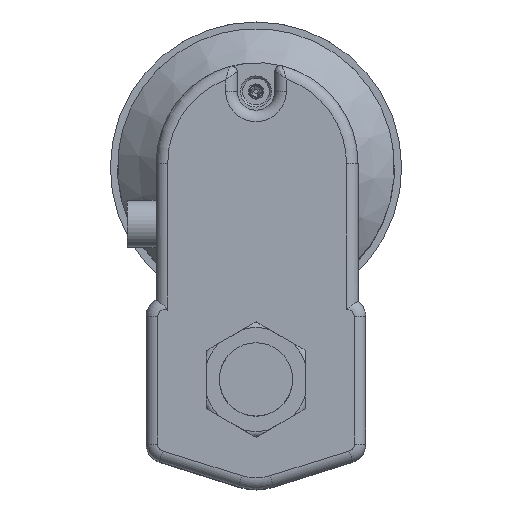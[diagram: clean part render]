
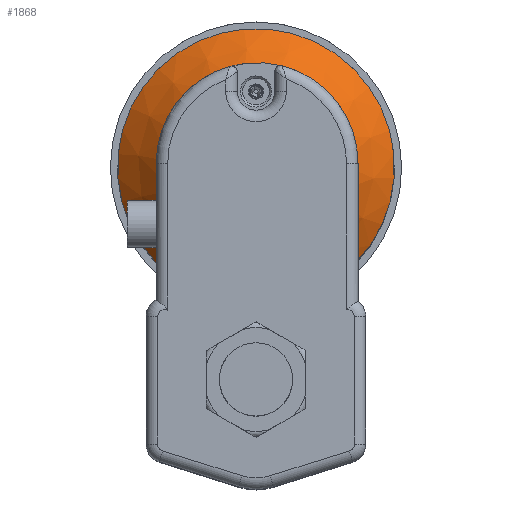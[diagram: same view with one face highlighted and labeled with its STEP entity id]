
A CAD part, top view. The second image highlights one B-rep face of the part: STEP entity #1868.
In plain terms, the highlighted conical face has half-angle 45 degrees and reference radius 48 mm.
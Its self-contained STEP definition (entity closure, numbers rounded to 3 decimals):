
#119 = VERTEX_POINT ( 'NONE', #287 ) ;
#120 = VERTEX_POINT ( 'NONE', #288 ) ;
#287 = CARTESIAN_POINT ( 'NONE',  ( 27.908, 34.847, 53.5 ) ) ;
#288 = CARTESIAN_POINT ( 'NONE',  ( -27.908, 34.847, 53.5 ) ) ;
#673 = FACE_OUTER_BOUND ( 'NONE', #5322, .T. ) ;
#676 = FACE_BOUND ( 'NONE', #5338, .T. ) ;
#677 = CONICAL_SURFACE ( 'NONE', #5158, 48., 0.785 ) ;
#963 = B_SPLINE_CURVE_WITH_KNOTS ( 'NONE', 3,
 ( #3382, #3385, #3386, #3387, #3388, #3389, #3390, #3391, #3392, #3393, #3394, #3395, #3396, #3397, #3398, #3399, #3400, #3401, #3402, #3403, #3404, #3405, #3406, #3407, #3408, #3409 ),
 .UNSPECIFIED., .F., .F.,
 ( 4, 2, 2, 2, 2, 2, 2, 2, 2, 2, 2, 2, 4 ),
 ( 0., 0.004, 0.007, 0.015, 0.018, 0.022, 0.026, 0.029, 0.037, 0.04, 0.044, 0.051, 0.059 ),
 .UNSPECIFIED. ) ;
#1533 = CIRCLE ( 'NONE', #2106, 34. ) ;
#1548 = CIRCLE ( 'NONE', #2114, 48. ) ;
#1868 = ADVANCED_FACE ( 'NONE', ( #676, #673 ), #677, .T. ) ;
#2106 = AXIS2_PLACEMENT_3D ( 'NONE', #3332, #3346, #3347 ) ;
#2114 = AXIS2_PLACEMENT_3D ( 'NONE', #3433, #3442, #3443 ) ;
#3332 = CARTESIAN_POINT ( 'NONE',  ( 0., 73.9, 67.5 ) ) ;
#3346 = DIRECTION ( 'NONE',  ( 0., 0., 1. ) ) ;
#3347 = DIRECTION ( 'NONE',  ( 0., -1., 0. ) ) ;
#3382 = CARTESIAN_POINT ( 'NONE',  ( -27.908, 34.847, 53.5 ) ) ;
#3385 = CARTESIAN_POINT ( 'NONE',  ( -26.826, 34.768, 54.065 ) ) ;
#3386 = CARTESIAN_POINT ( 'NONE',  ( -25.733, 34.688, 54.609 ) ) ;
#3387 = CARTESIAN_POINT ( 'NONE',  ( -23.531, 34.53, 55.644 ) ) ;
#3388 = CARTESIAN_POINT ( 'NONE',  ( -22.421, 34.452, 56.137 ) ) ;
#3389 = CARTESIAN_POINT ( 'NONE',  ( -19.06, 34.223, 57.53 ) ) ;
#3390 = CARTESIAN_POINT ( 'NONE',  ( -16.779, 34.077, 58.344 ) ) ;
#3391 = CARTESIAN_POINT ( 'NONE',  ( -13.28, 33.887, 59.356 ) ) ;
#3392 = CARTESIAN_POINT ( 'NONE',  ( -12.101, 33.829, 59.657 ) ) ;
#3393 = CARTESIAN_POINT ( 'NONE',  ( -9.715, 33.725, 60.183 ) ) ;
#3394 = CARTESIAN_POINT ( 'NONE',  ( -8.505, 33.679, 60.407 ) ) ;
#3395 = CARTESIAN_POINT ( 'NONE',  ( -6.081, 33.605, 60.767 ) ) ;
#3396 = CARTESIAN_POINT ( 'NONE',  ( -4.863, 33.577, 60.903 ) ) ;
#3397 = CARTESIAN_POINT ( 'NONE',  ( -2.415, 33.538, 61.085 ) ) ;
#3398 = CARTESIAN_POINT ( 'NONE',  ( -1.188, 33.529, 61.13 ) ) ;
#3399 = CARTESIAN_POINT ( 'NONE',  ( 2.477, 33.529, 61.127 ) ) ;
#3400 = CARTESIAN_POINT ( 'NONE',  ( 4.908, 33.569, 60.942 ) ) ;
#3401 = CARTESIAN_POINT ( 'NONE',  ( 8.537, 33.68, 60.402 ) ) ;
#3402 = CARTESIAN_POINT ( 'NONE',  ( 9.746, 33.726, 60.177 ) ) ;
#3403 = CARTESIAN_POINT ( 'NONE',  ( 12.13, 33.83, 59.65 ) ) ;
#3404 = CARTESIAN_POINT ( 'NONE',  ( 13.307, 33.888, 59.348 ) ) ;
#3405 = CARTESIAN_POINT ( 'NONE',  ( 16.801, 34.078, 58.337 ) ) ;
#3406 = CARTESIAN_POINT ( 'NONE',  ( 19.078, 34.224, 57.523 ) ) ;
#3407 = CARTESIAN_POINT ( 'NONE',  ( 23.55, 34.529, 55.668 ) ) ;
#3408 = CARTESIAN_POINT ( 'NONE',  ( 25.745, 34.688, 54.629 ) ) ;
#3409 = CARTESIAN_POINT ( 'NONE',  ( 27.908, 34.847, 53.5 ) ) ;
#3433 = CARTESIAN_POINT ( 'NONE',  ( 0., 73.9, 53.5 ) ) ;
#3442 = DIRECTION ( 'NONE',  ( 0., 0., 1. ) ) ;
#3443 = DIRECTION ( 'NONE',  ( 0., -1., 0. ) ) ;
#4561 = VERTEX_POINT ( 'NONE', #4562 ) ;
#4562 = CARTESIAN_POINT ( 'NONE',  ( 0., 39.9, 67.5 ) ) ;
#4951 = DIRECTION ( 'NONE',  ( 0., 0., -1. ) ) ;
#4952 = CARTESIAN_POINT ( 'NONE',  ( 0., 73.9, 53.5 ) ) ;
#4981 = DIRECTION ( 'NONE',  ( 0., 1., 0. ) ) ;
#5158 = AXIS2_PLACEMENT_3D ( 'NONE', #4952, #4951, #4981 ) ;
#5322 = EDGE_LOOP ( 'NONE', ( #5579, #5580 ) ) ;
#5338 = EDGE_LOOP ( 'NONE', ( #5578 ) ) ;
#5578 = ORIENTED_EDGE ( 'NONE', *, *, #5661, .F. ) ;
#5579 = ORIENTED_EDGE ( 'NONE', *, *, #5675, .T. ) ;
#5580 = ORIENTED_EDGE ( 'NONE', *, *, #5669, .T. ) ;
#5661 = EDGE_CURVE ( 'NONE', #4561, #4561, #1533, .T. ) ;
#5669 = EDGE_CURVE ( 'NONE', #120, #119, #963, .T. ) ;
#5675 = EDGE_CURVE ( 'NONE', #119, #120, #1548, .T. ) ;
